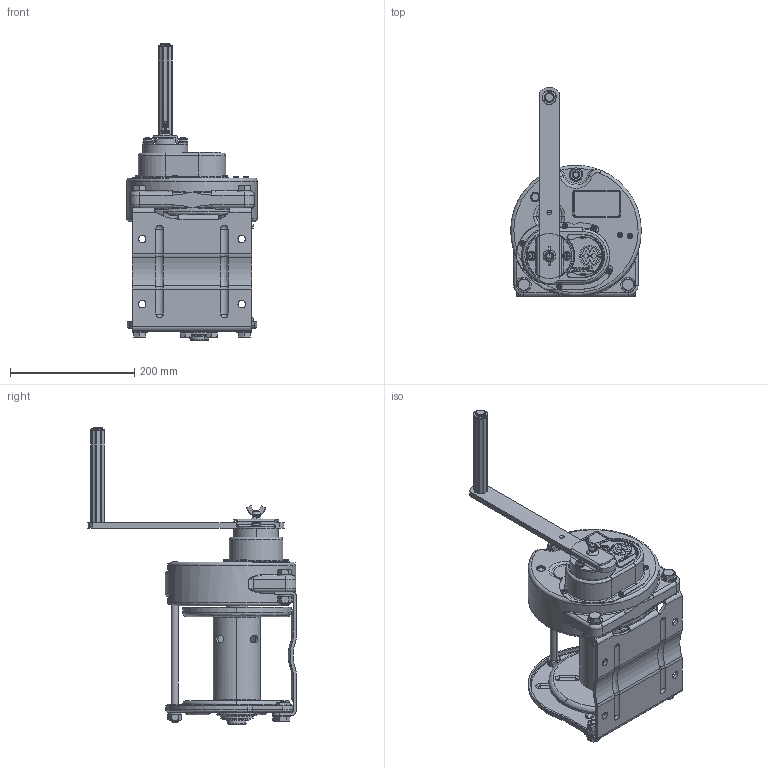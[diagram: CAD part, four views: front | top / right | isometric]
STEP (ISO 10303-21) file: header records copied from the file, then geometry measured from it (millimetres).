
FILE_DESCRIPTION( (''), '2;1');
FILE_NAME ('ST-5-SI.stp','2024-01-09T16:29:57',(''),(''),'spGate 19.8.2 (****-****-****-****)','','');
FILE_SCHEMA (('AUTOMOTIVE_DESIGN'));
Length unit declared in the file: millimetre
Products named in the file (3): Assembly; ST-5-SI-prt0; ST-5-SI-prt1
Assembly tree (2 placements, depth 2):
  Assembly
    ST-5-SI-prt0
    ST-5-SI-prt1
Bounding box: 209.96 x 335.43 x 478.1 mm (x, y, z)
Volume: 3834967 mm3; surface area: 651724 mm2
Topology: 2 solids, 2 shells, 2578 faces, 6630 edges, 4145 vertices
Faces by surface type: plane 1222, cylinder 838, bspline 456, sphere 62
Entity records: 141476 total; most frequent: CARTESIAN_POINT 27636, ORIENTED_EDGE 13164, DIRECTION 12649, COLOUR_RGB 9162, PRESENTATION_STYLE_ASSIGNMENT 9162, STYLED_ITEM 9162, EDGE_CURVE 6582, DRAUGHTING_PRE_DEFINED_CURVE_FONT 6582
